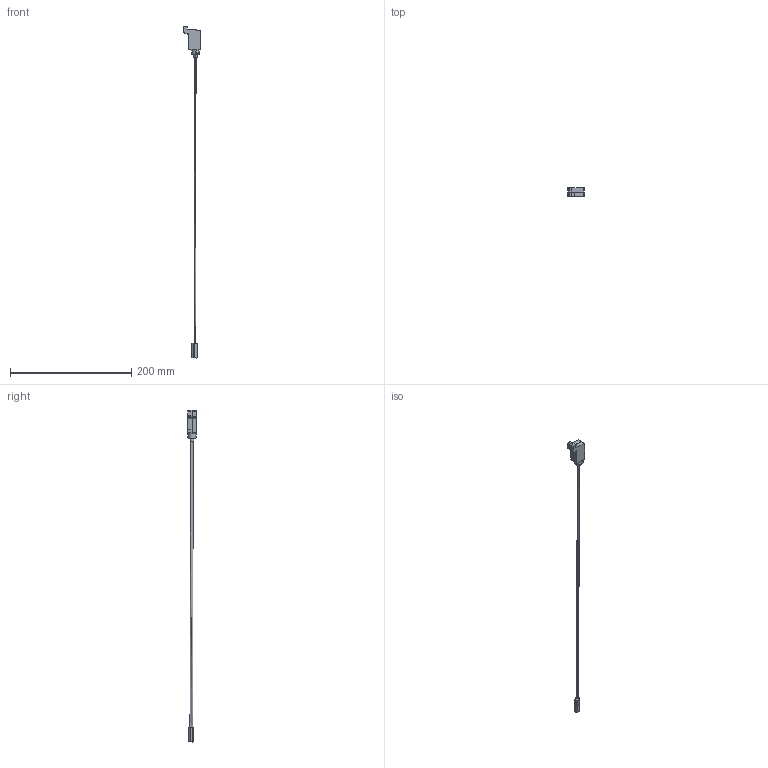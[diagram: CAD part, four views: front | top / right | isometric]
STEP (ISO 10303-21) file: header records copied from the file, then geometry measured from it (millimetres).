
FILE_DESCRIPTION (( 'STEP AP214' ), '1' );
FILE_NAME ('993823.STEP', '2025-10-01T12:05:59', ( '' ), ( '' ), 'SwSTEP 2.0', 'SolidWorks 2025', '' );
FILE_SCHEMA (( 'AUTOMOTIVE_DESIGN' ));
Length unit declared in the file: millimetre
Products named in the file (1): 993823
Bounding box: 26.84 x 14.33 x 546.57 mm (x, y, z)
Volume: 16176.8 mm3; surface area: 12387.1 mm2
Topology: 6 solids, 6 shells, 132 faces, 326 edges, 210 vertices
Faces by surface type: plane 67, cylinder 49, torus 16
Entity records: 4226 total; most frequent: CARTESIAN_POINT 915, DIRECTION 714, ORIENTED_EDGE 652, EDGE_CURVE 326, AXIS2_PLACEMENT_3D 259, VERTEX_POINT 210, VECTOR 196, LINE 196
